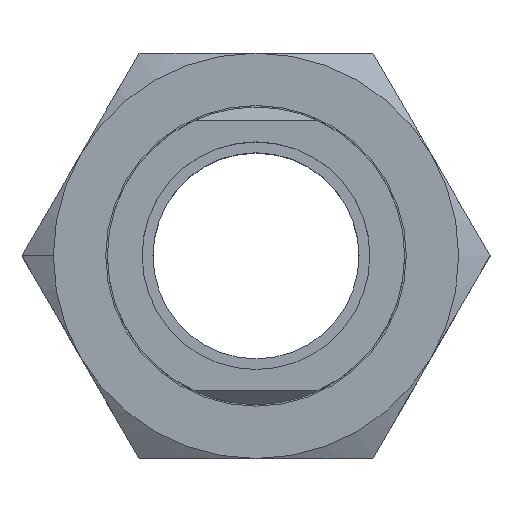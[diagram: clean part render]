
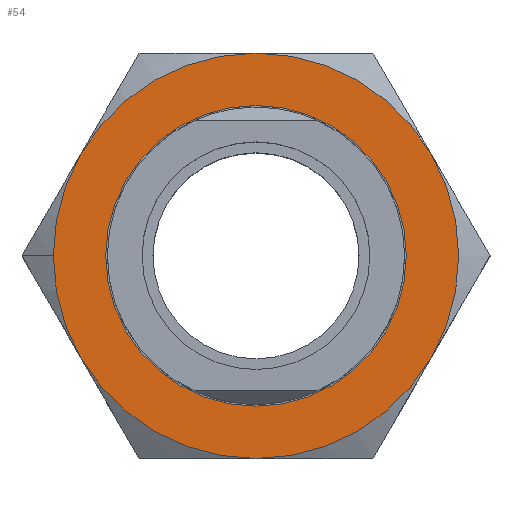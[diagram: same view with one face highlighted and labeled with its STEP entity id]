
A CAD part, top view. The second image highlights one B-rep face of the part: STEP entity #54.
In plain terms, the highlighted planar face has unit normal (0, 0, 1).
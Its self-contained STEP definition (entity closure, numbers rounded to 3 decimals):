
#27 = ORIENTED_EDGE ( 'NONE', *, *, #141, .T. ) ;
#30 = ORIENTED_EDGE ( 'NONE', *, *, #1306, .T. ) ;
#31 = ORIENTED_EDGE ( 'NONE', *, *, #155, .T. ) ;
#32 = ORIENTED_EDGE ( 'NONE', *, *, #1047, .T. ) ;
#40 = EDGE_LOOP ( 'NONE', ( #30, #27, #31, #32, #65, #63, #62 ) ) ;
#41 = ORIENTED_EDGE ( 'NONE', *, *, #990, .F. ) ;
#42 = ORIENTED_EDGE ( 'NONE', *, *, #61, .F. ) ;
#43 = EDGE_LOOP ( 'NONE', ( #42, #41 ) ) ;
#54 = ADVANCED_FACE ( 'NONE', ( #1775, #1774 ), #1773, .F. ) ;
#61 = EDGE_CURVE ( 'NONE', #1002, #1001, #1771, .T. ) ;
#62 = ORIENTED_EDGE ( 'NONE', *, *, #120, .T. ) ;
#63 = ORIENTED_EDGE ( 'NONE', *, *, #1319, .T. ) ;
#65 = ORIENTED_EDGE ( 'NONE', *, *, #136, .T. ) ;
#118 = VERTEX_POINT ( 'NONE', #1852 ) ;
#120 = EDGE_CURVE ( 'NONE', #118, #1320, #1910, .T. ) ;
#136 = EDGE_CURVE ( 'NONE', #1028, #1311, #1915, .T. ) ;
#141 = EDGE_CURVE ( 'NONE', #1299, #150, #1967, .T. ) ;
#150 = VERTEX_POINT ( 'NONE', #1994 ) ;
#155 = EDGE_CURVE ( 'NONE', #150, #1032, #1985, .T. ) ;
#990 = EDGE_CURVE ( 'NONE', #1001, #1002, #2141, .T. ) ;
#1001 = VERTEX_POINT ( 'NONE', #2180 ) ;
#1002 = VERTEX_POINT ( 'NONE', #2179 ) ;
#1028 = VERTEX_POINT ( 'NONE', #2208 ) ;
#1032 = VERTEX_POINT ( 'NONE', #2257 ) ;
#1047 = EDGE_CURVE ( 'NONE', #1032, #1028, #2272, .T. ) ;
#1299 = VERTEX_POINT ( 'NONE', #2299 ) ;
#1306 = EDGE_CURVE ( 'NONE', #1320, #1299, #2329, .T. ) ;
#1311 = VERTEX_POINT ( 'NONE', #2323 ) ;
#1319 = EDGE_CURVE ( 'NONE', #1311, #118, #2365, .T. ) ;
#1320 = VERTEX_POINT ( 'NONE', #2350 ) ;
#1764 = DIRECTION ( 'NONE',  ( 1., 0., 0. ) ) ;
#1765 = DIRECTION ( 'NONE',  ( 0., 0., 1. ) ) ;
#1766 = CARTESIAN_POINT ( 'NONE',  ( 0., 0., 12.5 ) ) ;
#1767 = AXIS2_PLACEMENT_3D ( 'NONE', #1766, #1765, #1764 ) ;
#1768 = DIRECTION ( 'NONE',  ( -1., 0., 0. ) ) ;
#1769 = DIRECTION ( 'NONE',  ( 0., 0., -1. ) ) ;
#1770 = AXIS2_PLACEMENT_3D ( 'NONE', #1772, #1769, #1768 ) ;
#1771 = CIRCLE ( 'NONE', #1767, 22.25 ) ;
#1772 = CARTESIAN_POINT ( 'NONE',  ( 0., 30., 12.5 ) ) ;
#1773 = PLANE ( 'NONE',  #1770 ) ;
#1774 = FACE_OUTER_BOUND ( 'NONE', #40, .T. ) ;
#1775 = FACE_BOUND ( 'NONE', #43, .T. ) ;
#1852 = CARTESIAN_POINT ( 'NONE',  ( 25.981, -15., 12.5 ) ) ;
#1906 = DIRECTION ( 'NONE',  ( 1., 0., 0. ) ) ;
#1907 = DIRECTION ( 'NONE',  ( 0., 0., 1. ) ) ;
#1908 = CARTESIAN_POINT ( 'NONE',  ( 0., 0., 12.5 ) ) ;
#1909 = AXIS2_PLACEMENT_3D ( 'NONE', #1908, #1907, #1906 ) ;
#1910 = CIRCLE ( 'NONE', #1909, 30. ) ;
#1912 = DIRECTION ( 'NONE',  ( 1., 0., 0. ) ) ;
#1913 = DIRECTION ( 'NONE',  ( 0., 0., 1. ) ) ;
#1914 = AXIS2_PLACEMENT_3D ( 'NONE', #1925, #1913, #1912 ) ;
#1915 = CIRCLE ( 'NONE', #1914, 30. ) ;
#1925 = CARTESIAN_POINT ( 'NONE',  ( 0., 0., 12.5 ) ) ;
#1963 = DIRECTION ( 'NONE',  ( 1., 0., 0. ) ) ;
#1964 = DIRECTION ( 'NONE',  ( 0., 0., 1. ) ) ;
#1965 = CARTESIAN_POINT ( 'NONE',  ( 0., 0., 12.5 ) ) ;
#1966 = AXIS2_PLACEMENT_3D ( 'NONE', #1965, #1964, #1963 ) ;
#1967 = CIRCLE ( 'NONE', #1966, 30. ) ;
#1971 = DIRECTION ( 'NONE',  ( 1., 0., 0. ) ) ;
#1972 = DIRECTION ( 'NONE',  ( 0., 0., 1. ) ) ;
#1973 = CARTESIAN_POINT ( 'NONE',  ( 0., 0., 12.5 ) ) ;
#1974 = AXIS2_PLACEMENT_3D ( 'NONE', #1973, #1972, #1971 ) ;
#1985 = CIRCLE ( 'NONE', #1974, 30. ) ;
#1994 = CARTESIAN_POINT ( 'NONE',  ( -25.981, 15., 12.5 ) ) ;
#2138 = DIRECTION ( 'NONE',  ( 0., 0., 1. ) ) ;
#2139 = CARTESIAN_POINT ( 'NONE',  ( 0., 0., 12.5 ) ) ;
#2140 = AXIS2_PLACEMENT_3D ( 'NONE', #2139, #2138, #2202 ) ;
#2141 = CIRCLE ( 'NONE', #2140, 22.25 ) ;
#2179 = CARTESIAN_POINT ( 'NONE',  ( 22.25, 0., 12.5 ) ) ;
#2180 = CARTESIAN_POINT ( 'NONE',  ( -22.25, 0., 12.5 ) ) ;
#2202 = DIRECTION ( 'NONE',  ( 1., 0., 0. ) ) ;
#2208 = CARTESIAN_POINT ( 'NONE',  ( -25.981, -15., 12.5 ) ) ;
#2257 = CARTESIAN_POINT ( 'NONE',  ( -30., 0., 12.5 ) ) ;
#2269 = DIRECTION ( 'NONE',  ( 1., 0., 0. ) ) ;
#2270 = DIRECTION ( 'NONE',  ( 0., 0., 1. ) ) ;
#2271 = AXIS2_PLACEMENT_3D ( 'NONE', #2276, #2270, #2269 ) ;
#2272 = CIRCLE ( 'NONE', #2271, 30. ) ;
#2276 = CARTESIAN_POINT ( 'NONE',  ( 0., 0., 12.5 ) ) ;
#2299 = CARTESIAN_POINT ( 'NONE',  ( 0., 30., 12.5 ) ) ;
#2323 = CARTESIAN_POINT ( 'NONE',  ( 0., -30., 12.5 ) ) ;
#2325 = DIRECTION ( 'NONE',  ( 1., 0., 0. ) ) ;
#2326 = DIRECTION ( 'NONE',  ( 0., 0., 1. ) ) ;
#2327 = CARTESIAN_POINT ( 'NONE',  ( 0., 0., 12.5 ) ) ;
#2328 = AXIS2_PLACEMENT_3D ( 'NONE', #2327, #2326, #2325 ) ;
#2329 = CIRCLE ( 'NONE', #2328, 30. ) ;
#2350 = CARTESIAN_POINT ( 'NONE',  ( 25.981, 15., 12.5 ) ) ;
#2351 = DIRECTION ( 'NONE',  ( 1., 0., 0. ) ) ;
#2352 = DIRECTION ( 'NONE',  ( 0., 0., 1. ) ) ;
#2353 = CARTESIAN_POINT ( 'NONE',  ( 0., 0., 12.5 ) ) ;
#2364 = AXIS2_PLACEMENT_3D ( 'NONE', #2353, #2352, #2351 ) ;
#2365 = CIRCLE ( 'NONE', #2364, 30. ) ;
